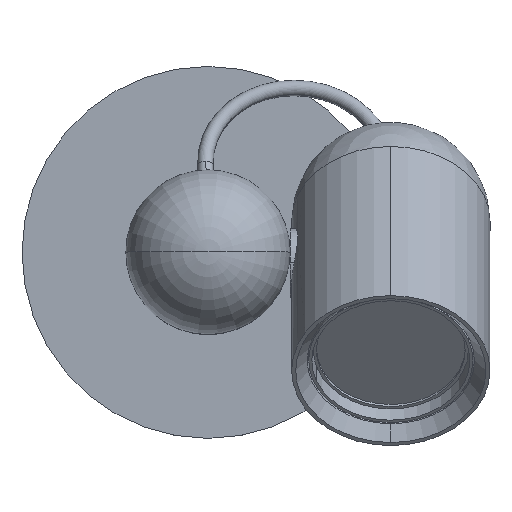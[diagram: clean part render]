
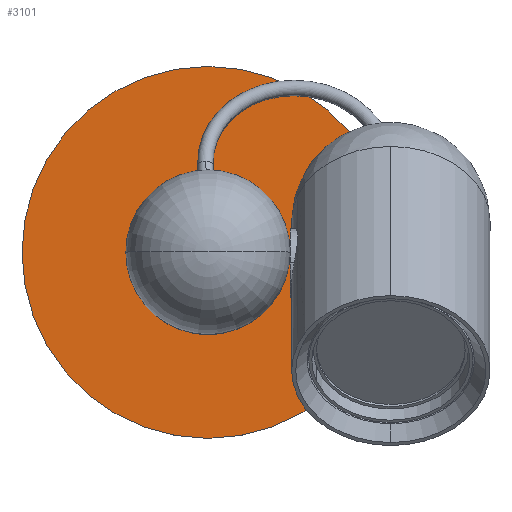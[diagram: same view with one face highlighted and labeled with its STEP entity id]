
A CAD part, top view. The second image highlights one B-rep face of the part: STEP entity #3101.
In plain terms, the highlighted planar face has unit normal (0, 0, 1).
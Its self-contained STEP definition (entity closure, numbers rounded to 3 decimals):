
#61 = EDGE_CURVE ( 'NONE', #8840, #1390, #2963, .T. ) ;
#90 = CIRCLE ( 'NONE', #8525, 60. ) ;
#162 = AXIS2_PLACEMENT_3D ( 'NONE', #5300, #5270, #1888 ) ;
#321 = DIRECTION ( 'NONE',  ( 0., 0., 1. ) ) ;
#363 = CARTESIAN_POINT ( 'NONE',  ( 0., 0., 1. ) ) ;
#453 = CARTESIAN_POINT ( 'NONE',  ( 21.213, 7.5, 1. ) ) ;
#631 = CIRCLE ( 'NONE', #5751, 2.125 ) ;
#736 = DIRECTION ( 'NONE',  ( 0., 0., 1. ) ) ;
#852 = CIRCLE ( 'NONE', #4878, 60. ) ;
#867 = AXIS2_PLACEMENT_3D ( 'NONE', #6994, #736, #8441 ) ;
#876 = FACE_BOUND ( 'NONE', #5555, .T. ) ;
#1005 = DIRECTION ( 'NONE',  ( 1., 0., 0. ) ) ;
#1041 = ORIENTED_EDGE ( 'NONE', *, *, #3845, .F. ) ;
#1042 = CARTESIAN_POINT ( 'NONE',  ( -17.125, 0., 1. ) ) ;
#1115 = ORIENTED_EDGE ( 'NONE', *, *, #1293, .F. ) ;
#1175 = DIRECTION ( 'NONE',  ( 1., 0., 0. ) ) ;
#1264 = CARTESIAN_POINT ( 'NONE',  ( 0., 0., 1. ) ) ;
#1293 = EDGE_CURVE ( 'NONE', #6561, #2922, #1840, .T. ) ;
#1304 = DIRECTION ( 'NONE',  ( 1., 0., 0. ) ) ;
#1387 = EDGE_CURVE ( 'NONE', #5286, #6808, #4449, .T. ) ;
#1390 = VERTEX_POINT ( 'NONE', #8918 ) ;
#1398 = EDGE_CURVE ( 'NONE', #2223, #8346, #852, .T. ) ;
#1609 = ORIENTED_EDGE ( 'NONE', *, *, #1387, .F. ) ;
#1612 = CARTESIAN_POINT ( 'NONE',  ( -15., 0., 1. ) ) ;
#1748 = DIRECTION ( 'NONE',  ( 1., 0., 0. ) ) ;
#1756 = AXIS2_PLACEMENT_3D ( 'NONE', #3027, #7967, #1005 ) ;
#1840 = CIRCLE ( 'NONE', #6448, 2.125 ) ;
#1888 = DIRECTION ( 'NONE',  ( 1., 0., 0. ) ) ;
#2223 = VERTEX_POINT ( 'NONE', #6720 ) ;
#2526 = FACE_OUTER_BOUND ( 'NONE', #6114, .T. ) ;
#2604 = ORIENTED_EDGE ( 'NONE', *, *, #1398, .T. ) ;
#2793 = CARTESIAN_POINT ( 'NONE',  ( -21.213, 7.5, 1. ) ) ;
#2796 = EDGE_LOOP ( 'NONE', ( #7425, #4227 ) ) ;
#2857 = VECTOR ( 'NONE', #8212, 1000. ) ;
#2922 = VERTEX_POINT ( 'NONE', #7608 ) ;
#2963 = LINE ( 'NONE', #3358, #2857 ) ;
#3027 = CARTESIAN_POINT ( 'NONE',  ( 15., 0., 1. ) ) ;
#3101 = ADVANCED_FACE ( 'NONE', ( #8392, #4054, #2526, #5245, #876 ), #6938, .T. ) ;
#3140 = CARTESIAN_POINT ( 'NONE',  ( -12.875, 0., 1. ) ) ;
#3347 = DIRECTION ( 'NONE',  ( 0., 0., 1. ) ) ;
#3358 = CARTESIAN_POINT ( 'NONE',  ( 0., -7.5, 1. ) ) ;
#3474 = EDGE_LOOP ( 'NONE', ( #1041, #1115 ) ) ;
#3481 = CIRCLE ( 'NONE', #7278, 22.5 ) ;
#3484 = VECTOR ( 'NONE', #6175, 1000. ) ;
#3646 = EDGE_LOOP ( 'NONE', ( #8110, #1609 ) ) ;
#3845 = EDGE_CURVE ( 'NONE', #2922, #6561, #5916, .T. ) ;
#3858 = CARTESIAN_POINT ( 'NONE',  ( 17.125, 0., 1. ) ) ;
#3944 = EDGE_CURVE ( 'NONE', #4886, #4407, #6985, .T. ) ;
#4054 = FACE_BOUND ( 'NONE', #2796, .T. ) ;
#4084 = ORIENTED_EDGE ( 'NONE', *, *, #6644, .T. ) ;
#4089 = CARTESIAN_POINT ( 'NONE',  ( 0., 7.5, 1. ) ) ;
#4129 = ORIENTED_EDGE ( 'NONE', *, *, #3944, .F. ) ;
#4227 = ORIENTED_EDGE ( 'NONE', *, *, #7727, .F. ) ;
#4407 = VERTEX_POINT ( 'NONE', #1042 ) ;
#4449 = LINE ( 'NONE', #4089, #3484 ) ;
#4478 = AXIS2_PLACEMENT_3D ( 'NONE', #6066, #8849, #4788 ) ;
#4788 = DIRECTION ( 'NONE',  ( 1., 0., 0. ) ) ;
#4878 = AXIS2_PLACEMENT_3D ( 'NONE', #8864, #8184, #1304 ) ;
#4886 = VERTEX_POINT ( 'NONE', #3140 ) ;
#5234 = CARTESIAN_POINT ( 'NONE',  ( -21.213, -7.5, 1. ) ) ;
#5245 = FACE_BOUND ( 'NONE', #3646, .T. ) ;
#5270 = DIRECTION ( 'NONE',  ( 0., 0., 1. ) ) ;
#5286 = VERTEX_POINT ( 'NONE', #2793 ) ;
#5300 = CARTESIAN_POINT ( 'NONE',  ( -15., 0., 1. ) ) ;
#5555 = EDGE_LOOP ( 'NONE', ( #5716, #4129 ) ) ;
#5716 = ORIENTED_EDGE ( 'NONE', *, *, #6474, .F. ) ;
#5751 = AXIS2_PLACEMENT_3D ( 'NONE', #1612, #5759, #6432 ) ;
#5759 = DIRECTION ( 'NONE',  ( 0., 0., 1. ) ) ;
#5916 = CIRCLE ( 'NONE', #1756, 2.125 ) ;
#6066 = CARTESIAN_POINT ( 'NONE',  ( 0., 0., 1. ) ) ;
#6114 = EDGE_LOOP ( 'NONE', ( #4084, #2604 ) ) ;
#6175 = DIRECTION ( 'NONE',  ( 1., 0., 0. ) ) ;
#6432 = DIRECTION ( 'NONE',  ( 1., 0., 0. ) ) ;
#6448 = AXIS2_PLACEMENT_3D ( 'NONE', #8092, #321, #1748 ) ;
#6474 = EDGE_CURVE ( 'NONE', #4407, #4886, #631, .T. ) ;
#6561 = VERTEX_POINT ( 'NONE', #3858 ) ;
#6627 = DIRECTION ( 'NONE',  ( 0., 0., 1. ) ) ;
#6644 = EDGE_CURVE ( 'NONE', #8346, #2223, #90, .T. ) ;
#6720 = CARTESIAN_POINT ( 'NONE',  ( 60., 0., 1. ) ) ;
#6808 = VERTEX_POINT ( 'NONE', #453 ) ;
#6938 = PLANE ( 'NONE',  #867 ) ;
#6985 = CIRCLE ( 'NONE', #162, 2.125 ) ;
#6994 = CARTESIAN_POINT ( 'NONE',  ( 0., 0., 1. ) ) ;
#7278 = AXIS2_PLACEMENT_3D ( 'NONE', #1264, #3347, #1175 ) ;
#7323 = EDGE_CURVE ( 'NONE', #6808, #5286, #3481, .T. ) ;
#7425 = ORIENTED_EDGE ( 'NONE', *, *, #61, .T. ) ;
#7434 = CARTESIAN_POINT ( 'NONE',  ( -60., 0., 1. ) ) ;
#7608 = CARTESIAN_POINT ( 'NONE',  ( 12.875, 0., 1. ) ) ;
#7727 = EDGE_CURVE ( 'NONE', #8840, #1390, #7800, .T. ) ;
#7800 = CIRCLE ( 'NONE', #4478, 22.5 ) ;
#7967 = DIRECTION ( 'NONE',  ( 0., 0., 1. ) ) ;
#8044 = DIRECTION ( 'NONE',  ( 1., 0., 0. ) ) ;
#8092 = CARTESIAN_POINT ( 'NONE',  ( 15., 0., 1. ) ) ;
#8110 = ORIENTED_EDGE ( 'NONE', *, *, #7323, .F. ) ;
#8184 = DIRECTION ( 'NONE',  ( 0., 0., 1. ) ) ;
#8212 = DIRECTION ( 'NONE',  ( 1., 0., 0. ) ) ;
#8346 = VERTEX_POINT ( 'NONE', #7434 ) ;
#8392 = FACE_BOUND ( 'NONE', #3474, .T. ) ;
#8441 = DIRECTION ( 'NONE',  ( 1., 0., 0. ) ) ;
#8525 = AXIS2_PLACEMENT_3D ( 'NONE', #363, #6627, #8044 ) ;
#8840 = VERTEX_POINT ( 'NONE', #5234 ) ;
#8849 = DIRECTION ( 'NONE',  ( 0., 0., 1. ) ) ;
#8864 = CARTESIAN_POINT ( 'NONE',  ( 0., 0., 1. ) ) ;
#8918 = CARTESIAN_POINT ( 'NONE',  ( 21.213, -7.5, 1. ) ) ;
